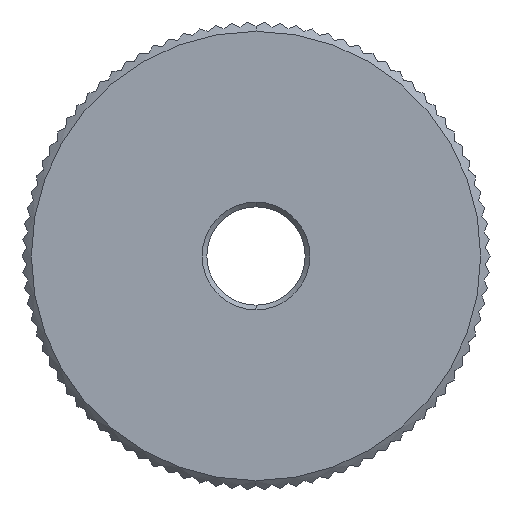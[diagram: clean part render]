
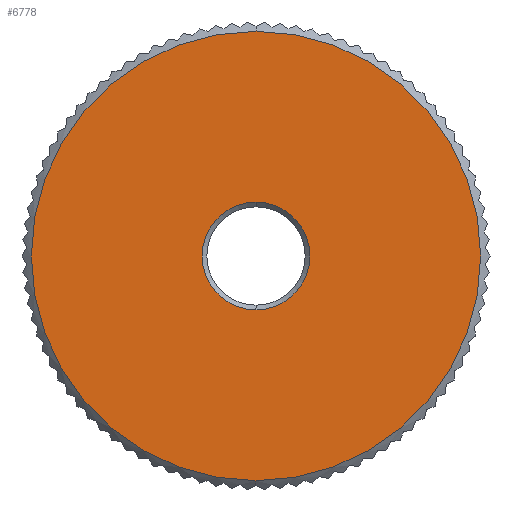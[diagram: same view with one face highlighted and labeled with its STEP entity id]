
A CAD part, left-side view. The second image highlights one B-rep face of the part: STEP entity #6778.
In plain terms, the highlighted planar face has unit normal (-1, 0, 0).
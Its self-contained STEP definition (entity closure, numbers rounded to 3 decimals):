
#944 = EDGE_CURVE ( 'NONE', #945, #5404, #2830, .T. ) ;
#945 = VERTEX_POINT ( 'NONE', #2825 ) ;
#1069 = VERTEX_POINT ( 'NONE', #3139 ) ;
#1071 = EDGE_CURVE ( 'NONE', #1072, #1069, #3138, .T. ) ;
#1072 = VERTEX_POINT ( 'NONE', #3133 ) ;
#2825 = CARTESIAN_POINT ( 'NONE',  ( -4., 0., 9.6 ) ) ;
#2826 = DIRECTION ( 'NONE',  ( 0., 0., -1. ) ) ;
#2827 = DIRECTION ( 'NONE',  ( -1., 0., 0. ) ) ;
#2828 = CARTESIAN_POINT ( 'NONE',  ( -4., 0., 0. ) ) ;
#2829 = AXIS2_PLACEMENT_3D ( 'NONE', #2828, #2827, #2826 ) ;
#2830 = CIRCLE ( 'NONE', #2829, 9.6 ) ;
#3133 = CARTESIAN_POINT ( 'NONE',  ( -4., 0., 2.3 ) ) ;
#3134 = DIRECTION ( 'NONE',  ( 0., 0., -1. ) ) ;
#3135 = DIRECTION ( 'NONE',  ( 1., 0., 0. ) ) ;
#3136 = CARTESIAN_POINT ( 'NONE',  ( -4., 0., 0. ) ) ;
#3137 = AXIS2_PLACEMENT_3D ( 'NONE', #3136, #3135, #3134 ) ;
#3138 = CIRCLE ( 'NONE', #3137, 2.3 ) ;
#3139 = CARTESIAN_POINT ( 'NONE',  ( -4., 0., -2.3 ) ) ;
#3880 = CARTESIAN_POINT ( 'NONE',  ( -4., 0., -9.6 ) ) ;
#5404 = VERTEX_POINT ( 'NONE', #3880 ) ;
#5695 = DIRECTION ( 'NONE',  ( 0., 0., -1. ) ) ;
#5696 = DIRECTION ( 'NONE',  ( -1., 0., 0. ) ) ;
#5697 = CARTESIAN_POINT ( 'NONE',  ( -4., 0., 0. ) ) ;
#5698 = AXIS2_PLACEMENT_3D ( 'NONE', #5697, #5696, #5695 ) ;
#5699 = CIRCLE ( 'NONE', #5698, 9.6 ) ;
#5702 = DIRECTION ( 'NONE',  ( 0., 0., -1. ) ) ;
#5703 = DIRECTION ( 'NONE',  ( 1., 0., 0. ) ) ;
#5704 = CARTESIAN_POINT ( 'NONE',  ( -4., 0., 0. ) ) ;
#5705 = AXIS2_PLACEMENT_3D ( 'NONE', #5704, #5703, #5702 ) ;
#5706 = DIRECTION ( 'NONE',  ( 0., 0., -1. ) ) ;
#5707 = DIRECTION ( 'NONE',  ( 1., 0., 0. ) ) ;
#5708 = CIRCLE ( 'NONE', #5705, 2.3 ) ;
#5709 = CARTESIAN_POINT ( 'NONE',  ( -4., 0., 0. ) ) ;
#5710 = AXIS2_PLACEMENT_3D ( 'NONE', #5709, #5707, #5706 ) ;
#5711 = PLANE ( 'NONE',  #5710 ) ;
#5712 = FACE_OUTER_BOUND ( 'NONE', #6767, .T. ) ;
#5713 = FACE_BOUND ( 'NONE', #6591, .T. ) ;
#6591 = EDGE_LOOP ( 'NONE', ( #6749, #6786 ) ) ;
#6749 = ORIENTED_EDGE ( 'NONE', *, *, #1071, .T. ) ;
#6767 = EDGE_LOOP ( 'NONE', ( #6788, #6787 ) ) ;
#6778 = ADVANCED_FACE ( 'NONE', ( #5713, #5712 ), #5711, .F. ) ;
#6784 = EDGE_CURVE ( 'NONE', #1069, #1072, #5708, .T. ) ;
#6786 = ORIENTED_EDGE ( 'NONE', *, *, #6784, .T. ) ;
#6787 = ORIENTED_EDGE ( 'NONE', *, *, #944, .T. ) ;
#6788 = ORIENTED_EDGE ( 'NONE', *, *, #6789, .T. ) ;
#6789 = EDGE_CURVE ( 'NONE', #5404, #945, #5699, .T. ) ;
